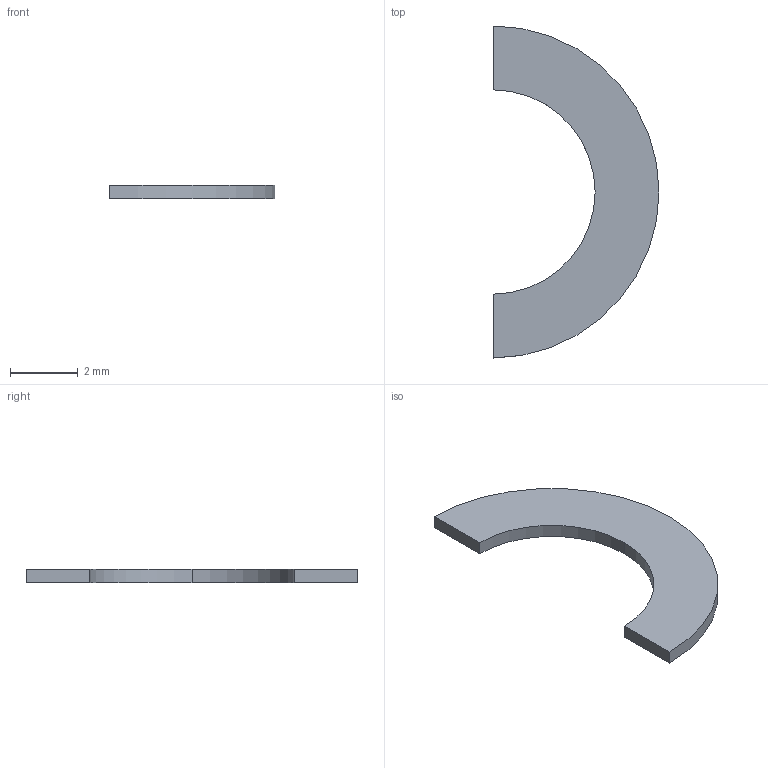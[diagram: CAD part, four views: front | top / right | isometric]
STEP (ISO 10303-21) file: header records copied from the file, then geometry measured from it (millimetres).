
FILE_DESCRIPTION(('Open CASCADE Model'),'2;1');
FILE_NAME('Open CASCADE Shape Model','2026-09-24T19:52:59',('Author'),( 'Open CASCADE'),'Open CASCADE STEP processor 7.8','Open CASCADE 7.8' ,'Unknown');
FILE_SCHEMA(('AUTOMOTIVE_DESIGN { 1 0 10303 214 1 1 1 1 }'));
Length unit declared in the file: millimetre
Products named in the file (1): Open CASCADE STEP translator 7.8 43
Bounding box: 4.9 x 9.8 x 0.4 mm (x, y, z)
Volume: 9.4 mm3; surface area: 58.3 mm2
Topology: 1 solids, 1 shells, 8 faces, 18 edges, 12 vertices
Faces by surface type: cylinder 4, plane 4
Entity records: 458 total; most frequent: CARTESIAN_POINT 91, DIRECTION 64, ORIENTED_EDGE 36, PCURVE 36, DEFINITIONAL_REPRESENTATION 36, LINE 22, VECTOR 22, EDGE_CURVE 18
